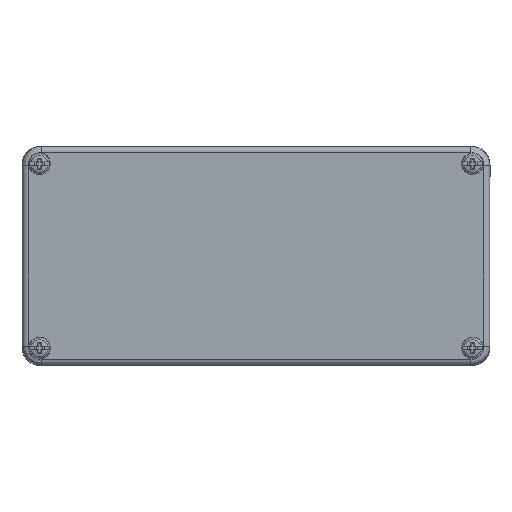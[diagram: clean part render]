
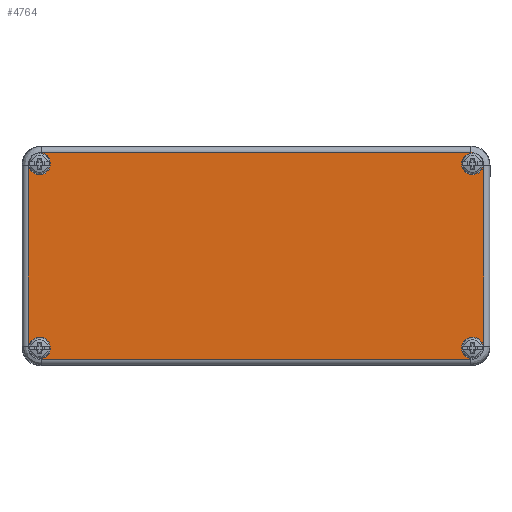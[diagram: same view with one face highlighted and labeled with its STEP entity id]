
A CAD part, top view. The second image highlights one B-rep face of the part: STEP entity #4764.
In plain terms, the highlighted planar face has unit normal (0, 0, 1).
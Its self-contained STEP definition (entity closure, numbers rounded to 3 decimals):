
#317=PLANE('',#5228);
#514=CIRCLE('',#5208,3.75);
#517=CIRCLE('',#5214,3.75);
#520=CIRCLE('',#5220,3.75);
#523=CIRCLE('',#5226,3.75);
#842=FACE_OUTER_BOUND('',#1209,.T.);
#1209=EDGE_LOOP('',(#3806,#3807,#3808,#3809,#3810,#3811,#3812,#3813,#3814,
#3815,#3816,#3817,#3818,#3819,#3820,#3821));
#1556=LINE('',#8046,#1876);
#1557=LINE('',#8051,#1877);
#1558=LINE('',#8056,#1878);
#1559=LINE('',#8061,#1879);
#1876=VECTOR('',#6289,146.773);
#1877=VECTOR('',#6294,61.773);
#1878=VECTOR('',#6299,146.773);
#1879=VECTOR('',#6304,61.773);
#2080=ELLIPSE('',#5229,4.5,4.5);
#2081=ELLIPSE('',#5230,4.5,4.5);
#2082=ELLIPSE('',#5231,4.5,4.5);
#2083=ELLIPSE('',#5232,4.5,4.5);
#2084=ELLIPSE('',#5233,4.5,4.5);
#2085=ELLIPSE('',#5234,4.5,4.5);
#2086=ELLIPSE('',#5235,4.5,4.5);
#2087=ELLIPSE('',#5236,4.5,4.5);
#2302=VERTEX_POINT('',#7976);
#2303=VERTEX_POINT('',#7977);
#2306=VERTEX_POINT('',#7994);
#2307=VERTEX_POINT('',#7995);
#2310=VERTEX_POINT('',#8012);
#2311=VERTEX_POINT('',#8013);
#2314=VERTEX_POINT('',#8030);
#2315=VERTEX_POINT('',#8031);
#2316=VERTEX_POINT('',#8043);
#2317=VERTEX_POINT('',#8045);
#2318=VERTEX_POINT('',#8048);
#2319=VERTEX_POINT('',#8050);
#2320=VERTEX_POINT('',#8053);
#2321=VERTEX_POINT('',#8055);
#2322=VERTEX_POINT('',#8058);
#2323=VERTEX_POINT('',#8060);
#2842=EDGE_CURVE('',#2303,#2302,#514,.T.);
#2846=EDGE_CURVE('',#2307,#2306,#517,.T.);
#2850=EDGE_CURVE('',#2311,#2310,#520,.T.);
#2854=EDGE_CURVE('',#2315,#2314,#523,.T.);
#2855=EDGE_CURVE('',#2316,#2302,#2080,.T.);
#2856=EDGE_CURVE('',#2317,#2316,#1556,.T.);
#2857=EDGE_CURVE('',#2307,#2317,#2081,.T.);
#2858=EDGE_CURVE('',#2318,#2306,#2082,.T.);
#2859=EDGE_CURVE('',#2319,#2318,#1557,.T.);
#2860=EDGE_CURVE('',#2311,#2319,#2083,.T.);
#2861=EDGE_CURVE('',#2320,#2310,#2084,.T.);
#2862=EDGE_CURVE('',#2321,#2320,#1558,.T.);
#2863=EDGE_CURVE('',#2315,#2321,#2085,.T.);
#2864=EDGE_CURVE('',#2322,#2314,#2086,.T.);
#2865=EDGE_CURVE('',#2323,#2322,#1559,.T.);
#2866=EDGE_CURVE('',#2303,#2323,#2087,.T.);
#3806=ORIENTED_EDGE('',*,*,#2842,.T.);
#3807=ORIENTED_EDGE('',*,*,#2855,.F.);
#3808=ORIENTED_EDGE('',*,*,#2856,.F.);
#3809=ORIENTED_EDGE('',*,*,#2857,.F.);
#3810=ORIENTED_EDGE('',*,*,#2846,.T.);
#3811=ORIENTED_EDGE('',*,*,#2858,.F.);
#3812=ORIENTED_EDGE('',*,*,#2859,.F.);
#3813=ORIENTED_EDGE('',*,*,#2860,.F.);
#3814=ORIENTED_EDGE('',*,*,#2850,.T.);
#3815=ORIENTED_EDGE('',*,*,#2861,.F.);
#3816=ORIENTED_EDGE('',*,*,#2862,.F.);
#3817=ORIENTED_EDGE('',*,*,#2863,.F.);
#3818=ORIENTED_EDGE('',*,*,#2854,.T.);
#3819=ORIENTED_EDGE('',*,*,#2864,.F.);
#3820=ORIENTED_EDGE('',*,*,#2865,.F.);
#3821=ORIENTED_EDGE('',*,*,#2866,.F.);
#4764=ADVANCED_FACE('',(#842),#317,.T.);
#5208=AXIS2_PLACEMENT_3D('',#7986,#6245,#6246);
#5214=AXIS2_PLACEMENT_3D('',#8004,#6257,#6258);
#5220=AXIS2_PLACEMENT_3D('',#8022,#6269,#6270);
#5226=AXIS2_PLACEMENT_3D('',#8040,#6281,#6282);
#5228=AXIS2_PLACEMENT_3D('',#8042,#6285,#6286);
#5229=AXIS2_PLACEMENT_3D('',#8044,#6287,#6288);
#5230=AXIS2_PLACEMENT_3D('',#8047,#6290,#6291);
#5231=AXIS2_PLACEMENT_3D('',#8049,#6292,#6293);
#5232=AXIS2_PLACEMENT_3D('',#8052,#6295,#6296);
#5233=AXIS2_PLACEMENT_3D('',#8054,#6297,#6298);
#5234=AXIS2_PLACEMENT_3D('',#8057,#6300,#6301);
#5235=AXIS2_PLACEMENT_3D('',#8059,#6302,#6303);
#5236=AXIS2_PLACEMENT_3D('',#8062,#6305,#6306);
#6245=DIRECTION('center_axis',(0.,0.,-1.));
#6246=DIRECTION('ref_axis',(1.,0.,0.));
#6257=DIRECTION('center_axis',(0.,0.,-1.));
#6258=DIRECTION('ref_axis',(1.,0.,0.));
#6269=DIRECTION('center_axis',(0.,0.,-1.));
#6270=DIRECTION('ref_axis',(1.,0.,0.));
#6281=DIRECTION('center_axis',(0.,0.,-1.));
#6282=DIRECTION('ref_axis',(1.,0.,0.));
#6285=DIRECTION('center_axis',(0.,0.,1.));
#6286=DIRECTION('ref_axis',(1.,0.,0.));
#6287=DIRECTION('center_axis',(0.,0.,-1.));
#6288=DIRECTION('ref_axis',(-0.707,-0.707,0.));
#6289=DIRECTION('',(-1.,0.,0.));
#6290=DIRECTION('center_axis',(0.,0.,-1.));
#6291=DIRECTION('ref_axis',(0.707,-0.707,0.));
#6292=DIRECTION('center_axis',(0.,0.,-1.));
#6293=DIRECTION('ref_axis',(0.707,-0.707,0.));
#6294=DIRECTION('',(0.,-1.,0.));
#6295=DIRECTION('center_axis',(0.,0.,-1.));
#6296=DIRECTION('ref_axis',(0.707,0.707,0.));
#6297=DIRECTION('center_axis',(0.,0.,-1.));
#6298=DIRECTION('ref_axis',(0.707,0.707,0.));
#6299=DIRECTION('',(1.,0.,0.));
#6300=DIRECTION('center_axis',(0.,0.,-1.));
#6301=DIRECTION('ref_axis',(-0.707,0.707,0.));
#6302=DIRECTION('center_axis',(0.,0.,-1.));
#6303=DIRECTION('ref_axis',(-0.707,0.707,0.));
#6304=DIRECTION('',(0.,1.,0.));
#6305=DIRECTION('center_axis',(0.,0.,-1.));
#6306=DIRECTION('ref_axis',(-0.707,-0.707,0.));
#7976=CARTESIAN_POINT('',(-74.757,-35.173,15.));
#7977=CARTESIAN_POINT('',(-77.673,-32.257,15.));
#7986=CARTESIAN_POINT('Origin',(-74.,-31.5,15.));
#7994=CARTESIAN_POINT('',(77.673,-32.257,15.));
#7995=CARTESIAN_POINT('',(74.757,-35.173,15.));
#8004=CARTESIAN_POINT('Origin',(74.,-31.5,15.));
#8012=CARTESIAN_POINT('',(74.757,35.173,15.));
#8013=CARTESIAN_POINT('',(77.673,32.257,15.));
#8022=CARTESIAN_POINT('Origin',(74.,31.5,15.));
#8030=CARTESIAN_POINT('',(-77.673,32.257,15.));
#8031=CARTESIAN_POINT('',(-74.757,35.173,15.));
#8040=CARTESIAN_POINT('Origin',(-74.,31.5,15.));
#8042=CARTESIAN_POINT('Origin',(0.,0.,
15.));
#8043=CARTESIAN_POINT('',(-73.387,-35.386,15.));
#8044=CARTESIAN_POINT('Origin',(-73.386,-30.886,15.));
#8045=CARTESIAN_POINT('',(73.387,-35.386,15.));
#8046=CARTESIAN_POINT('',(40.,-35.386,15.));
#8047=CARTESIAN_POINT('Origin',(73.386,-30.886,15.));
#8048=CARTESIAN_POINT('',(77.886,-30.887,15.));
#8049=CARTESIAN_POINT('Origin',(73.386,-30.886,15.));
#8050=CARTESIAN_POINT('',(77.886,30.887,15.));
#8051=CARTESIAN_POINT('',(77.886,18.75,15.));
#8052=CARTESIAN_POINT('Origin',(73.386,30.886,15.));
#8053=CARTESIAN_POINT('',(73.387,35.386,15.));
#8054=CARTESIAN_POINT('Origin',(73.386,30.886,15.));
#8055=CARTESIAN_POINT('',(-73.387,35.386,15.));
#8056=CARTESIAN_POINT('',(-40.,35.386,15.));
#8057=CARTESIAN_POINT('Origin',(-73.386,30.886,15.));
#8058=CARTESIAN_POINT('',(-77.886,30.887,15.));
#8059=CARTESIAN_POINT('Origin',(-73.386,30.886,15.));
#8060=CARTESIAN_POINT('',(-77.886,-30.887,15.));
#8061=CARTESIAN_POINT('',(-77.886,-18.75,15.));
#8062=CARTESIAN_POINT('Origin',(-73.386,-30.886,15.));
